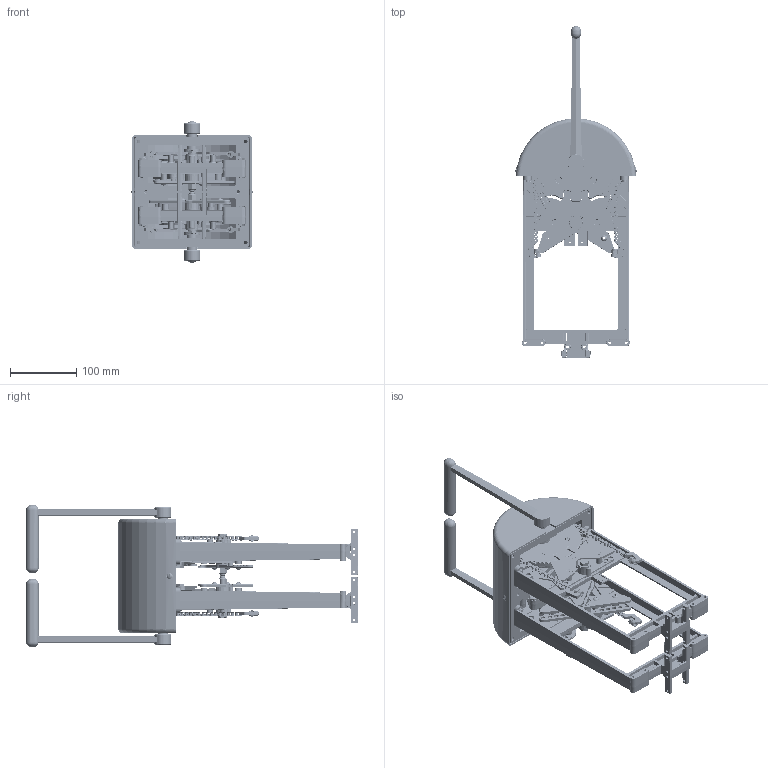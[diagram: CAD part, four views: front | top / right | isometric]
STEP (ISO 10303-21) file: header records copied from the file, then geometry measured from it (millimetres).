
FILE_DESCRIPTION (( 'STEP AP214' ), '1' );
FILE_NAME ('2092-KY.STEP', '2025-07-21T13:29:25', ( '' ), ( '' ), 'SwSTEP 2.0', 'SolidWorks 2023', '' );
FILE_SCHEMA (( 'AUTOMOTIVE_DESIGN' ));
Length unit declared in the file: inch
Products named in the file (1): 2092-KY
Bounding box: 183.18 x 500.51 x 214.5 mm (x, y, z)
Surface area: 531414.9 mm2 (no closed solid volume)
Topology: 0 solids, 536 shells, 4279 faces, 16692 edges, 12535 vertices
Faces by surface type: cylinder 1439, plane 1150, torus 796, cone 633, bspline 243, sphere 18
Entity records: 186230 total; most frequent: CARTESIAN_POINT 50925, DIRECTION 30530, ORIENTED_EDGE 23170, EDGE_CURVE 16676, VERTEX_POINT 12535, AXIS2_PLACEMENT_3D 12419, CIRCLE 8382, LINE 5692
